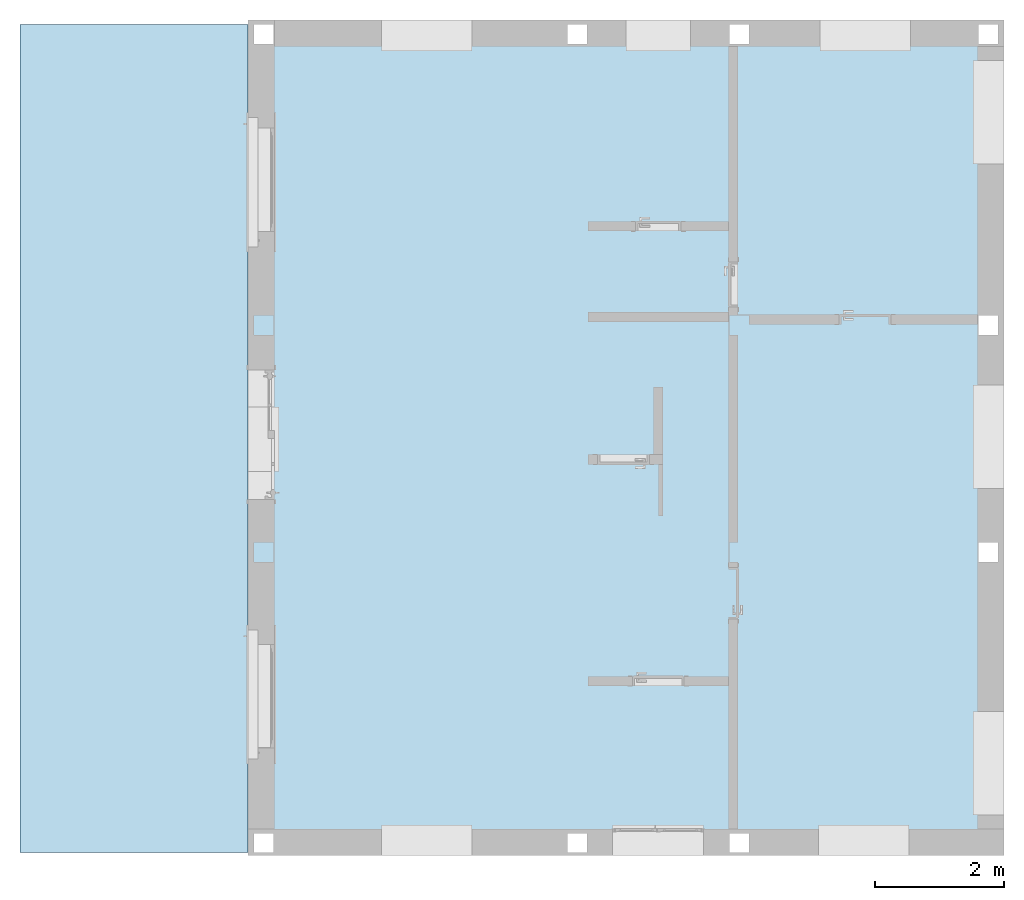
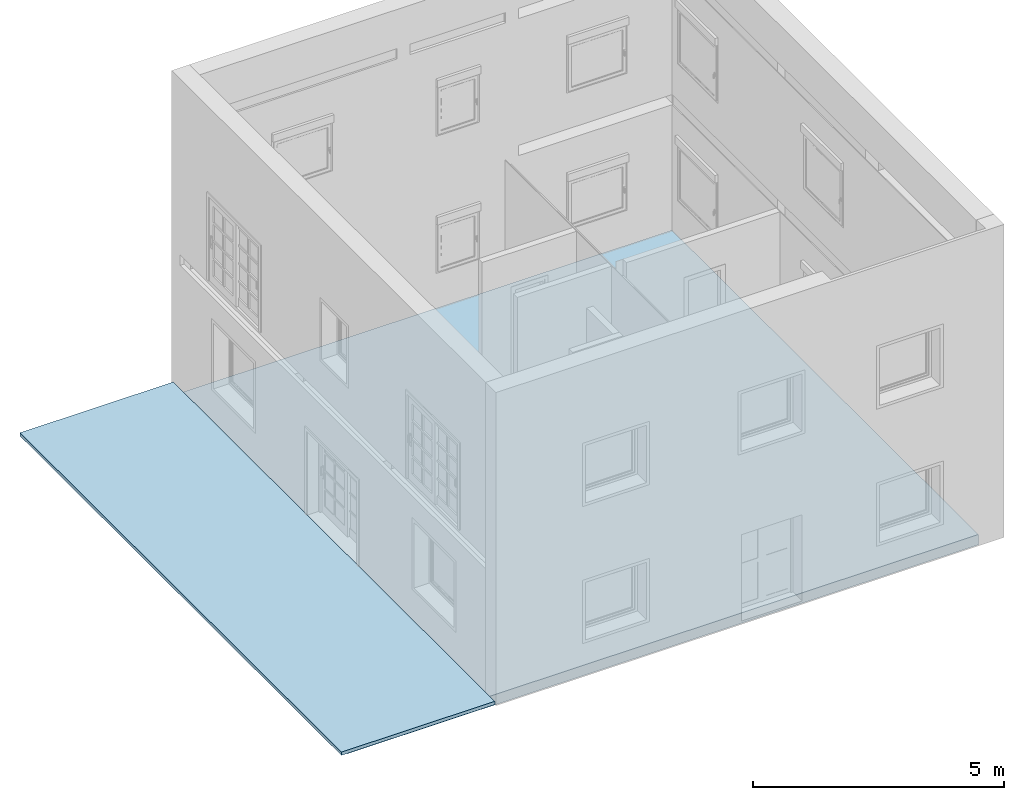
# One storey, part 1 of 11: 2 slabs.
"""IFC2X3 building model written with IfcOpenShell, lengths in metres."""

from ifc_helpers import new_model, entity, si_unit, converted_unit, derived_unit, direction, frame, frame_2d, origin, origin_2d_with_axis, place, context, subcontext, project, spatial, rectangle, extrude, material, layer, layer_set, layer_usage, element, save


model = new_model("IFC2X3")

# Units and contexts
model_context = context("Model", 3, precision=1e-05, world=origin(), true_north=direction((6.12303176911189e-17, 1.0)))
context_of_model = context(None, 3, precision=1e-05, world=origin(), true_north=direction((6.12303176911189e-17, 1.0)))
body_context = subcontext(model_context, "Body", "Model", "MODEL_VIEW")
ifc_project = project(units=[si_unit("LENGTHUNIT", "METRE"), si_unit("AREAUNIT", "SQUARE_METRE"), si_unit("VOLUMEUNIT", "CUBIC_METRE"), converted_unit("PLANEANGLEUNIT", "DEGREE", entity("IfcRatioMeasure", 0.0174532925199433), si_unit("PLANEANGLEUNIT", "RADIAN"), dimensions=[0, 0, 0, 0, 0, 0, 0]), si_unit("MASSUNIT", "GRAM", prefix="KILO"), si_unit("TIMEUNIT", "SECOND"), si_unit("FREQUENCYUNIT", "HERTZ"), si_unit("THERMODYNAMICTEMPERATUREUNIT", "DEGREE_CELSIUS"), derived_unit("THERMALTRANSMITTANCEUNIT", [(si_unit("MASSUNIT", "GRAM", prefix="KILO"), 1), (si_unit("THERMODYNAMICTEMPERATUREUNIT", "KELVIN"), -1), (si_unit("TIMEUNIT", "SECOND"), -3)]), derived_unit("VOLUMETRICFLOWRATEUNIT", [(si_unit("LENGTHUNIT", "METRE"), 3), (si_unit("TIMEUNIT", "SECOND"), -1)]), si_unit("ELECTRICCURRENTUNIT", "AMPERE"), si_unit("ELECTRICVOLTAGEUNIT", "VOLT"), si_unit("POWERUNIT", "WATT"), si_unit("FORCEUNIT", "NEWTON", prefix="KILO"), si_unit("ILLUMINANCEUNIT", "LUX"), si_unit("LUMINOUSFLUXUNIT", "LUMEN"), si_unit("LUMINOUSINTENSITYUNIT", "CANDELA"), si_unit("PRESSUREUNIT", "PASCAL")], contexts=[model_context, context_of_model])

# Site, building, storey
site_placement = place(None, origin())
site = spatial("IfcSite", under=ifc_project, at=site_placement, Name="Default", CompositionType="ELEMENT")
building_placement = place(site_placement, origin())
building = spatial("IfcBuilding", under=site, at=building_placement, CompositionType="ELEMENT")
storey_placement = place(building_placement, frame((0.0, 0.0, 0.12)))
storey = spatial("IfcBuildingStorey", under=building, at=storey_placement, Name="01.ES.FORJADO PLANTA BAJA", CompositionType="ELEMENT", Elevation=0.12)

# Slabs
ifc_material_1 = material(Name="Suelos por defecto")
ifc_layer_1 = layer(ifc_material_1, 0.25)
ifc_layer_set_1 = layer_set([ifc_layer_1], Name="Suelo:Forjado bovedilla + vigueta - 25 cm")
ifc_layer_usage_1 = layer_usage(ifc_layer_set_1, "AXIS3", "POSITIVE", 0.0)
slab_1_placement = place(storey_placement, origin())
element("IfcSlab", 1, at=slab_1_placement, inside=storey, material=ifc_layer_usage_1, Name="Suelo:Forjado bovedilla + vigueta - 25 cm", ObjectType="Suelo:Forjado bovedilla + vigueta - 25 cm", PredefinedType="FLOOR", context=body_context, shape_type="SweptSolid", body=[
    extrude(rectangle(XDim=12.2000000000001, YDim=14.515, at=frame_2d((-8.88178419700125e-16, 0.0), x_axis=(1.0, 0.0))), frame((8.00749999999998, 6.84999999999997, 0.0), z_axis=(0.0, 0.0, -1.0), x_axis=(0.0, 1.0, 0.0)), (0.0, 0.0, 1.0), 0.25),
])
ifc_material_2 = material(Name="Hormigón")
ifc_layer_2 = layer(ifc_material_2, 0.08)
ifc_layer_set_2 = layer_set([ifc_layer_2], Name="Suelo:Solera - 8 cm")
ifc_layer_usage_2 = layer_usage(ifc_layer_set_2, "AXIS3", "POSITIVE", 0.0)
slab_2_placement = place(storey_placement, origin())
element("IfcSlab", 2, at=slab_2_placement, inside=storey, material=ifc_layer_usage_2, Name="Suelo:Solera - 8 cm", ObjectType="Suelo:Solera - 8 cm", PredefinedType="FLOOR", context=body_context, shape_type="SweptSolid", body=[
    extrude(rectangle(XDim=12.8, YDim=3.52499999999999, at=origin_2d_with_axis()), frame((2.21249999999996, 6.84999999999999, 0.08), z_axis=(0.0, 0.0, -1.0), x_axis=(0.0, 1.0, 0.0)), (0.0, 0.0, 1.0), 0.08),
])

save(model, "model.ifc")
